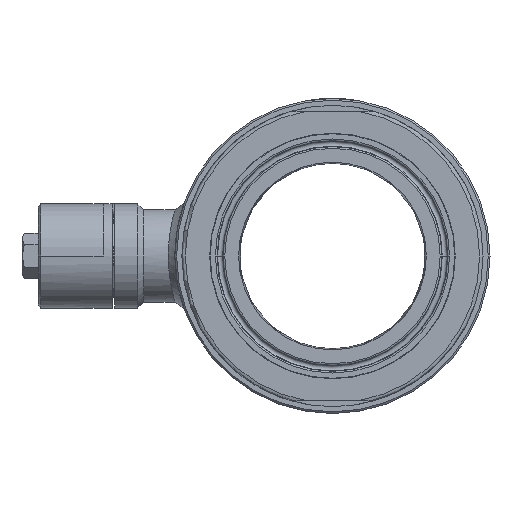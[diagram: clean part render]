
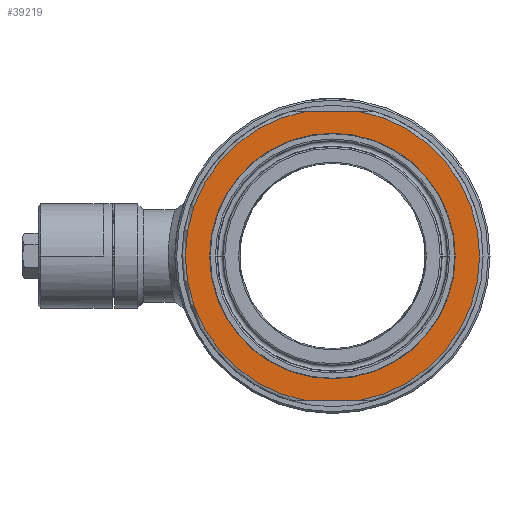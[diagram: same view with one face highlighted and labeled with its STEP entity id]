
A CAD part, left-side view. The second image highlights one B-rep face of the part: STEP entity #39219.
In plain terms, the highlighted planar face has unit normal (-1, 0, 0).
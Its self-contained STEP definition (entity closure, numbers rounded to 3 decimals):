
#3582=CARTESIAN_POINT('',(-65.,0.,0.));
#3583=DIRECTION('',(-1.,0.,0.));
#3584=DIRECTION('',(0.,-1.,0.));
#3585=AXIS2_PLACEMENT_3D('',#3582,#3583,#3584);
#3614=DIRECTION('',(0.,-1.,0.));
#3615=VECTOR('',#3614,22.45);
#3616=CARTESIAN_POINT('',(-65.,11.225,62.5));
#3617=LINE('',#3616,#3615);
#3621=DIRECTION('',(0.,-1.,0.));
#3622=VECTOR('',#3621,22.45);
#3623=CARTESIAN_POINT('',(-65.,11.225,-62.5));
#3624=LINE('',#3623,#3622);
#3665=CARTESIAN_POINT('',(-65.,11.225,62.5));
#3701=CARTESIAN_POINT('',(-65.,0.,0.));
#3702=DIRECTION('',(-1.,0.,0.));
#3703=DIRECTION('',(0.,0.177,0.984));
#3704=AXIS2_PLACEMENT_3D('',#3701,#3702,#3703);
#3709=CARTESIAN_POINT('',(-65.,11.225,-62.5));
#3775=CARTESIAN_POINT('',(-65.,0.,0.));
#3776=DIRECTION('',(-1.,0.,0.));
#3777=DIRECTION('',(0.,-0.177,-0.984));
#3778=AXIS2_PLACEMENT_3D('',#3775,#3776,#3777);
#3783=CARTESIAN_POINT('',(-65.,-11.225,62.5));
#3835=CARTESIAN_POINT('',(-65.,-11.225,-62.5));
#3892=CARTESIAN_POINT('',(-65.,0.,0.));
#3893=DIRECTION('',(-1.,0.,0.));
#3894=DIRECTION('',(0.,1.,0.));
#3895=AXIS2_PLACEMENT_3D('',#3892,#3893,#3894);
#36126=CARTESIAN_POINT('',(-65.,50.,0.));
#36127=CARTESIAN_POINT('',(-65.,-50.,0.));
#36128=VERTEX_POINT('',#36126);
#36129=VERTEX_POINT('',#36127);
#36194=VERTEX_POINT('',#3835);
#36197=VERTEX_POINT('',#3783);
#36202=VERTEX_POINT('',#3709);
#36205=VERTEX_POINT('',#3665);
#39199=CARTESIAN_POINT('',(-65.,0.,0.));
#39200=DIRECTION('',(-1.,0.,0.));
#39201=DIRECTION('',(0.,-1.,0.));
#39202=AXIS2_PLACEMENT_3D('',#39199,#39200,#39201);
#39203=PLANE('',#39202);
#39205=ORIENTED_EDGE('',*,*,#39204,.T.);
#39207=ORIENTED_EDGE('',*,*,#39206,.F.);
#39209=ORIENTED_EDGE('',*,*,#39208,.F.);
#39211=ORIENTED_EDGE('',*,*,#39210,.F.);
#39212=EDGE_LOOP('',(#39205,#39207,#39209,#39211));
#39213=FACE_OUTER_BOUND('',#39212,.F.);
#39214=ORIENTED_EDGE('',*,*,#39189,.T.);
#39216=ORIENTED_EDGE('',*,*,#39215,.T.);
#39217=EDGE_LOOP('',(#39214,#39216));
#39218=FACE_BOUND('',#39217,.F.);
#39219=ADVANCED_FACE('',(#39213,#39218),#39203,.T.);
#3586=CIRCLE('',#3585,50.);
#3705=CIRCLE('',#3704,63.5);
#3779=CIRCLE('',#3778,63.5);
#3896=CIRCLE('',#3895,50.);
#39189=EDGE_CURVE('',#36129,#36128,#3586,.T.);
#39204=EDGE_CURVE('',#36205,#36197,#3617,.T.);
#39206=EDGE_CURVE('',#36194,#36197,#3779,.T.);
#39208=EDGE_CURVE('',#36202,#36194,#3624,.T.);
#39210=EDGE_CURVE('',#36205,#36202,#3705,.T.);
#39215=EDGE_CURVE('',#36128,#36129,#3896,.T.);
